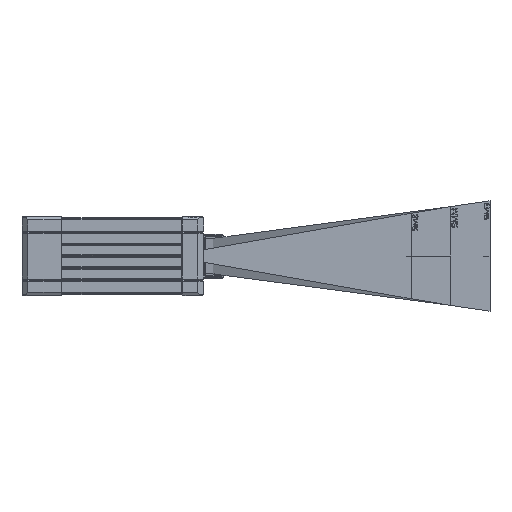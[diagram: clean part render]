
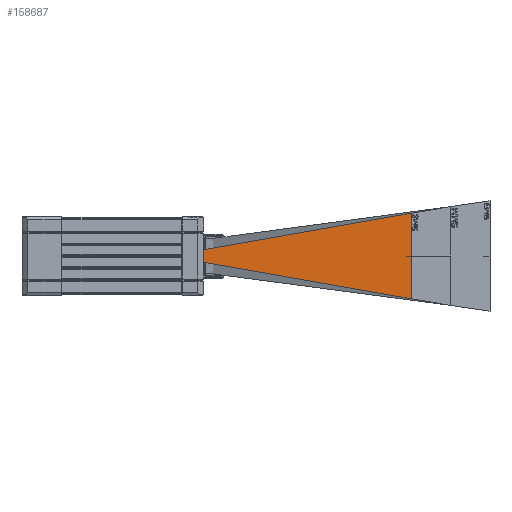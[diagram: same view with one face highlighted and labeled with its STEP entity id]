
A CAD part, left-side view. The second image highlights one B-rep face of the part: STEP entity #158687.
In plain terms, the highlighted planar face has unit normal (-1, 0, 0).
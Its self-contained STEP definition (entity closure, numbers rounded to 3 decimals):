
#841 = DIRECTION ( 'NONE',  ( 0., 0., -1. ) ) ;
#1375 = VERTEX_POINT ( 'NONE', #83387 ) ;
#14341 = LINE ( 'NONE', #69638, #104596 ) ;
#20151 = CARTESIAN_POINT ( 'NONE',  ( -43.5, 0.192, -1.091 ) ) ;
#31935 = ORIENTED_EDGE ( 'NONE', *, *, #59778, .F. ) ;
#32357 = CARTESIAN_POINT ( 'NONE',  ( -43.501, -116., 0. ) ) ;
#33720 = LINE ( 'NONE', #20151, #39176 ) ;
#36243 = CARTESIAN_POINT ( 'NONE',  ( -43.501, -116., 21.721 ) ) ;
#39176 = VECTOR ( 'NONE', #118020, 1000. ) ;
#45489 = EDGE_LOOP ( 'NONE', ( #175287, #115774, #108474, #31935 ) ) ;
#48704 = LINE ( 'NONE', #32357, #66680 ) ;
#55787 = EDGE_CURVE ( 'NONE', #123769, #170645, #91948, .T. ) ;
#56576 = EDGE_CURVE ( 'NONE', #123769, #1375, #48704, .T. ) ;
#57669 = VECTOR ( 'NONE', #136179, 1000. ) ;
#59778 = EDGE_CURVE ( 'NONE', #1375, #87800, #33720, .T. ) ;
#63332 = AXIS2_PLACEMENT_3D ( 'NONE', #104099, #159232, #149203 ) ;
#66680 = VECTOR ( 'NONE', #102192, 1000. ) ;
#69638 = CARTESIAN_POINT ( 'NONE',  ( -43.5, -11., 0. ) ) ;
#75129 = PLANE ( 'NONE',  #63332 ) ;
#83387 = CARTESIAN_POINT ( 'NONE',  ( -43.501, -116., -21.579 ) ) ;
#87800 = VERTEX_POINT ( 'NONE', #155887 ) ;
#91948 = LINE ( 'NONE', #175049, #57669 ) ;
#102192 = DIRECTION ( 'NONE',  ( 0., 0., -1. ) ) ;
#104099 = CARTESIAN_POINT ( 'NONE',  ( -43.5, 0., 0. ) ) ;
#104596 = VECTOR ( 'NONE', #841, 1000. ) ;
#108474 = ORIENTED_EDGE ( 'NONE', *, *, #122661, .T. ) ;
#115774 = ORIENTED_EDGE ( 'NONE', *, *, #55787, .T. ) ;
#115906 = FACE_OUTER_BOUND ( 'NONE', #45489, .T. ) ;
#118020 = DIRECTION ( 'NONE',  ( 0., 0.985, 0.174 ) ) ;
#121666 = CARTESIAN_POINT ( 'NONE',  ( -43.5, -11., 3.206 ) ) ;
#122661 = EDGE_CURVE ( 'NONE', #170645, #87800, #14341, .T. ) ;
#123769 = VERTEX_POINT ( 'NONE', #36243 ) ;
#136179 = DIRECTION ( 'NONE',  ( 0., 0.985, -0.174 ) ) ;
#149203 = DIRECTION ( 'NONE',  ( 0., -1., 0. ) ) ;
#155887 = CARTESIAN_POINT ( 'NONE',  ( -43.5, -11., -3.065 ) ) ;
#158687 = ADVANCED_FACE ( 'NONE', ( #115906 ), #75129, .F. ) ;
#159232 = DIRECTION ( 'NONE',  ( 1., 0., 0. ) ) ;
#170645 = VERTEX_POINT ( 'NONE', #121666 ) ;
#175049 = CARTESIAN_POINT ( 'NONE',  ( -43.5, 0.217, 1.229 ) ) ;
#175287 = ORIENTED_EDGE ( 'NONE', *, *, #56576, .F. ) ;
